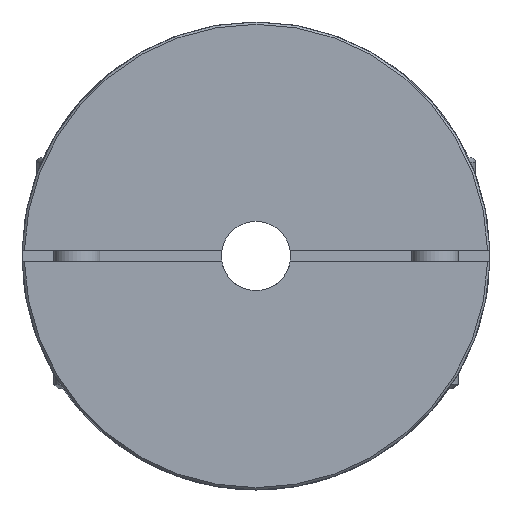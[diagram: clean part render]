
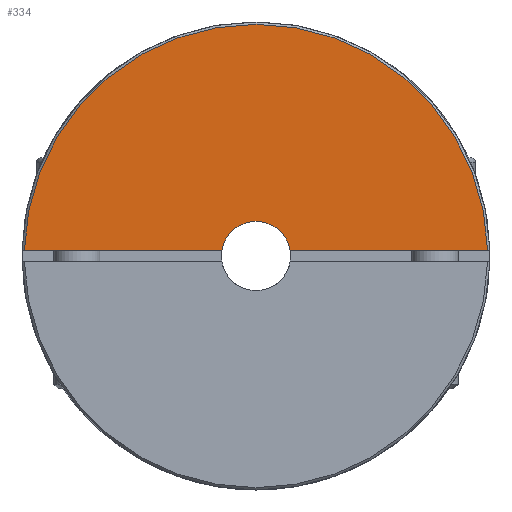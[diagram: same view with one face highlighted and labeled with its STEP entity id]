
A CAD part, left-side view. The second image highlights one B-rep face of the part: STEP entity #334.
In plain terms, the highlighted planar face has unit normal (-1, 0, 0) as drawn and (1, 0, 0) by its records, which use the part's own axes.
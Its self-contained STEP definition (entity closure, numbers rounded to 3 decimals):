
#334 = ADVANCED_FACE( '', ( #703 ), #704, .F. );
#703 = FACE_OUTER_BOUND( '', #1216, .T. );
#704 = PLANE( '', #1217 );
#1216 = EDGE_LOOP( '', ( #1803, #1804, #1805, #1806 ) );
#1217 = AXIS2_PLACEMENT_3D( '', #1807, #1808, #1809 );
#1803 = ORIENTED_EDGE( '', *, *, #2514, .T. );
#1804 = ORIENTED_EDGE( '', *, *, #2551, .T. );
#1805 = ORIENTED_EDGE( '', *, *, #2519, .T. );
#1806 = ORIENTED_EDGE( '', *, *, #2552, .T. );
#1807 = CARTESIAN_POINT( '', ( 13.5, 0., 3. ) );
#1808 = DIRECTION( '', ( -1., 0., 0. ) );
#1809 = DIRECTION( '', ( 0., 0., 1. ) );
#2514 = EDGE_CURVE( '', #2865, #2863, #2866, .T. );
#2519 = EDGE_CURVE( '', #2873, #2874, #2875, .T. );
#2551 = EDGE_CURVE( '', #2863, #2873, #2925, .F. );
#2552 = EDGE_CURVE( '', #2874, #2865, #2926, .T. );
#2863 = VERTEX_POINT( '', #3375 );
#2865 = VERTEX_POINT( '', #3380 );
#2866 = LINE( '', #3381, #3382 );
#2873 = VERTEX_POINT( '', #3391 );
#2874 = VERTEX_POINT( '', #3392 );
#2875 = LINE( '', #3393, #3394 );
#2925 = CIRCLE( '', #3496, 20.05 );
#2926 = CIRCLE( '', #3497, 3. );
#3375 = CARTESIAN_POINT( '', ( 13.5, 20.044, 0.5 ) );
#3380 = CARTESIAN_POINT( '', ( 13.5, 2.958, 0.5 ) );
#3381 = CARTESIAN_POINT( '', ( 13.5, 0., 0.5 ) );
#3382 = VECTOR( '', #3998, 1000. );
#3391 = CARTESIAN_POINT( '', ( 13.5, -20.044, 0.5 ) );
#3392 = CARTESIAN_POINT( '', ( 13.5, -2.958, 0.5 ) );
#3393 = CARTESIAN_POINT( '', ( 13.5, 0., 0.5 ) );
#3394 = VECTOR( '', #4004, 1000. );
#3496 = AXIS2_PLACEMENT_3D( '', #4050, #4051, #4052 );
#3497 = AXIS2_PLACEMENT_3D( '', #4053, #4054, #4055 );
#3998 = DIRECTION( '', ( 0., 1., 0. ) );
#4004 = DIRECTION( '', ( 0., 1., 0. ) );
#4050 = CARTESIAN_POINT( '', ( 13.5, 0., 0. ) );
#4051 = DIRECTION( '', ( -1., 0., 0. ) );
#4052 = DIRECTION( '', ( 0., 0., 1. ) );
#4053 = CARTESIAN_POINT( '', ( 13.5, 0., 0. ) );
#4054 = DIRECTION( '', ( -1., 0., 0. ) );
#4055 = DIRECTION( '', ( 0., 0., 1. ) );
